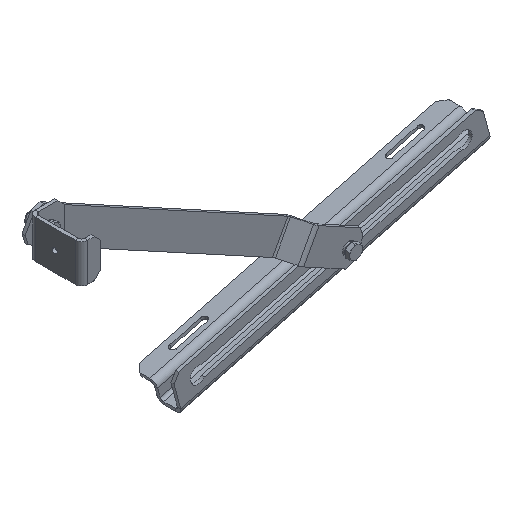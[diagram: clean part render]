
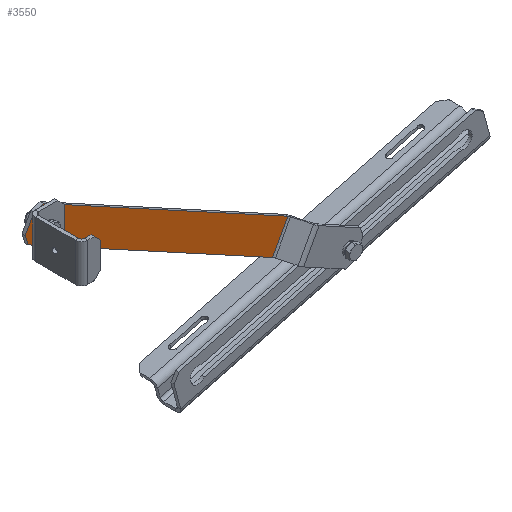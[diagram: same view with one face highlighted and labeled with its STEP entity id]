
A CAD part, isometric view. The second image highlights one B-rep face of the part: STEP entity #3550.
In plain terms, the highlighted planar face has unit normal (0, -1, 0) as drawn and (0, 1, 0) by its records, which use the part's own axes.
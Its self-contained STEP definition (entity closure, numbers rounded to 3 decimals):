
#671 = ORIENTED_EDGE ( 'NONE', *, *, #3401, .T. ) ;
#918 = ORIENTED_EDGE ( 'NONE', *, *, #3436, .T. ) ;
#1035 = ORIENTED_EDGE ( 'NONE', *, *, #3452, .T. ) ;
#1038 = ORIENTED_EDGE ( 'NONE', *, *, #3454, .F. ) ;
#1143 = ORIENTED_EDGE ( 'NONE', *, *, #3389, .T. ) ;
#1144 = EDGE_LOOP ( 'NONE', ( #1280, #1143, #1151, #1035, #1038, #918 ) ) ;
#1151 = ORIENTED_EDGE ( 'NONE', *, *, #3453, .F. ) ;
#1162 = EDGE_LOOP ( 'NONE', ( #671, #1484 ) ) ;
#1280 = ORIENTED_EDGE ( 'NONE', *, *, #3408, .F. ) ;
#1484 = ORIENTED_EDGE ( 'NONE', *, *, #3390, .T. ) ;
#1874 = DIRECTION ( 'NONE',  ( 0., 0., -1. ) ) ;
#1886 = LINE ( 'NONE', #1888, #5641 ) ;
#1888 = CARTESIAN_POINT ( 'NONE',  ( -112.5, 0., -12.5 ) ) ;
#1890 = DIRECTION ( 'NONE',  ( -1., 0., 0. ) ) ;
#1892 = LINE ( 'NONE', #1898, #5316 ) ;
#1898 = CARTESIAN_POINT ( 'NONE',  ( 107.197, 0., -12.5 ) ) ;
#1899 = DIRECTION ( 'NONE',  ( 0.707, 0., 0.707 ) ) ;
#1900 = LINE ( 'NONE', #1901, #4829 ) ;
#1901 = CARTESIAN_POINT ( 'NONE',  ( -110.47, 0., 12.5 ) ) ;
#1918 = LINE ( 'NONE', #1919, #5741 ) ;
#1919 = CARTESIAN_POINT ( 'NONE',  ( -112.5, 0., 12.5 ) ) ;
#1920 = DIRECTION ( 'NONE',  ( 1., 0., 0. ) ) ;
#2022 = DIRECTION ( 'NONE',  ( -0.707, 0., 0.707 ) ) ;
#2028 = LINE ( 'NONE', #2030, #5177 ) ;
#2030 = CARTESIAN_POINT ( 'NONE',  ( 107.197, 0., 12.5 ) ) ;
#2047 = DIRECTION ( 'NONE',  ( 0., 0., -1. ) ) ;
#2049 = DIRECTION ( 'NONE',  ( 0., -1., 0. ) ) ;
#2060 = CARTESIAN_POINT ( 'NONE',  ( 100.5, 0., 0. ) ) ;
#2079 = DIRECTION ( 'NONE',  ( 0., 0., -1. ) ) ;
#2080 = CARTESIAN_POINT ( 'NONE',  ( 112.5, 0., 12.5 ) ) ;
#2081 = DIRECTION ( 'NONE',  ( 0., -1., 0. ) ) ;
#2083 = DIRECTION ( 'NONE',  ( 0., 0., -1. ) ) ;
#2087 = LINE ( 'NONE', #2080, #4853 ) ;
#2103 = CARTESIAN_POINT ( 'NONE',  ( 100.5, 0., 0. ) ) ;
#3211 = CIRCLE ( 'NONE', #5107, 5. ) ;
#3215 = CIRCLE ( 'NONE', #5150, 5. ) ;
#3389 = EDGE_CURVE ( 'NONE', #5893, #5891, #2087, .T. ) ;
#3390 = EDGE_CURVE ( 'NONE', #5910, #5901, #3215, .T. ) ;
#3401 = EDGE_CURVE ( 'NONE', #5901, #5910, #3211, .T. ) ;
#3408 = EDGE_CURVE ( 'NONE', #5893, #5892, #2028, .T. ) ;
#3436 = EDGE_CURVE ( 'NONE', #5870, #5892, #1918, .T. ) ;
#3452 = EDGE_CURVE ( 'NONE', #5884, #5875, #1886, .T. ) ;
#3453 = EDGE_CURVE ( 'NONE', #5884, #5891, #1892, .T. ) ;
#3454 = EDGE_CURVE ( 'NONE', #5870, #5875, #1900, .T. ) ;
#3550 = ADVANCED_FACE ( 'NONE', ( #5589, #5275 ), #4642, .F. ) ;
#4517 = CARTESIAN_POINT ( 'NONE',  ( 112.5, 0., -7.197 ) ) ;
#4520 = CARTESIAN_POINT ( 'NONE',  ( 107.197, 0., 12.5 ) ) ;
#4534 = CARTESIAN_POINT ( 'NONE',  ( 112.5, 0., 7.197 ) ) ;
#4572 = CARTESIAN_POINT ( 'NONE',  ( 100.5, 0., -5. ) ) ;
#4642 = PLANE ( 'NONE',  #4922 ) ;
#4657 = CARTESIAN_POINT ( 'NONE',  ( 112.5, 0., -12.5 ) ) ;
#4694 = DIRECTION ( 'NONE',  ( 0., -1., 0. ) ) ;
#4767 = DIRECTION ( 'NONE',  ( 0., 0., -1. ) ) ;
#4829 = VECTOR ( 'NONE', #1874, 1000. ) ;
#4853 = VECTOR ( 'NONE', #2083, 1000. ) ;
#4922 = AXIS2_PLACEMENT_3D ( 'NONE', #4657, #4694, #4767 ) ;
#5001 = CARTESIAN_POINT ( 'NONE',  ( -110.47, 0., -12.5 ) ) ;
#5077 = CARTESIAN_POINT ( 'NONE',  ( 107.197, 0., -12.5 ) ) ;
#5106 = CARTESIAN_POINT ( 'NONE',  ( 100.5, 0., 5. ) ) ;
#5107 = AXIS2_PLACEMENT_3D ( 'NONE', #2060, #2049, #2047 ) ;
#5150 = AXIS2_PLACEMENT_3D ( 'NONE', #2103, #2081, #2079 ) ;
#5177 = VECTOR ( 'NONE', #2022, 1000. ) ;
#5232 = CARTESIAN_POINT ( 'NONE',  ( -110.47, 0., 12.5 ) ) ;
#5275 = FACE_OUTER_BOUND ( 'NONE', #1144, .T. ) ;
#5316 = VECTOR ( 'NONE', #1899, 1000. ) ;
#5589 = FACE_BOUND ( 'NONE', #1162, .T. ) ;
#5641 = VECTOR ( 'NONE', #1890, 1000. ) ;
#5741 = VECTOR ( 'NONE', #1920, 1000. ) ;
#5870 = VERTEX_POINT ( 'NONE', #5232 ) ;
#5875 = VERTEX_POINT ( 'NONE', #5001 ) ;
#5884 = VERTEX_POINT ( 'NONE', #5077 ) ;
#5891 = VERTEX_POINT ( 'NONE', #4517 ) ;
#5892 = VERTEX_POINT ( 'NONE', #4520 ) ;
#5893 = VERTEX_POINT ( 'NONE', #4534 ) ;
#5901 = VERTEX_POINT ( 'NONE', #5106 ) ;
#5910 = VERTEX_POINT ( 'NONE', #4572 ) ;
